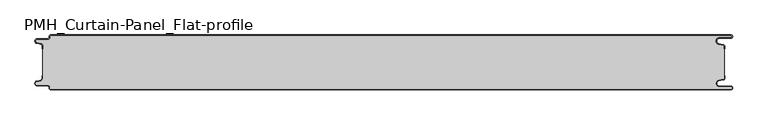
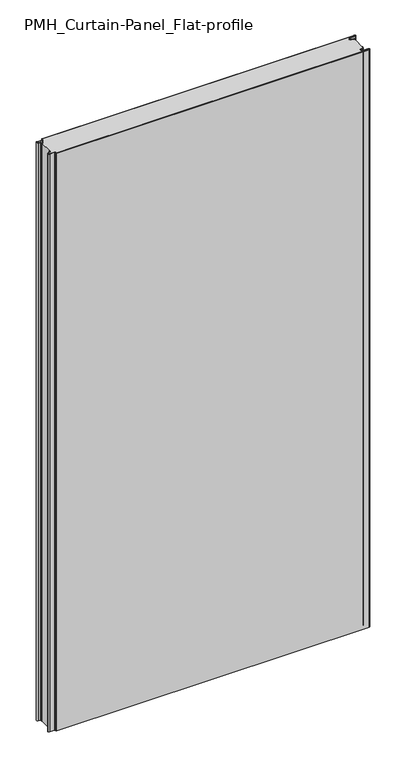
"""IFC4 building model written with IfcOpenShell, lengths in millimetres: plate geometry, PMH_Curtain-Panel_Flat-profile : ACH_PMH_Stone-wool-Panel_80M."""

from ifc_helpers import new_model, si_unit, point, frame, frame_2d, origin, origin_with_axes, place, context, project, spatial, polyline, circle_curve, trimmed, segment, composite_curve, outline, extrude, source, transform, mapped, element, save
from ifc_brep_helpers import plane_surface, cylinder_surface, revolved_surface, advanced_brep


def pmh_curtain_panel_flat_profile_7f0bee08(model_context):
    return source(origin(), model_context, "Body", "SolidModel", [
        advanced_brep(
        [(508.1, 0.0, 1945.7507136), (-487.4, 0.0, 1945.7507136), (-489.4, -2.0, 1945.7507136), (-489.4, -3.4, 1945.7507136), (-491.4, -5.4, 1945.7507136), (-506.9, -5.4, 1945.7507136), (-507.7098239, -12.5077322, 1945.7507136), (-501.5500979, -13.929817, 1945.7507136), (-500.0, -15.878557, 1945.7507136), (-500.0, -20.0, 1945.7507136), (-499.2, -20.0, 1945.7507136), (-499.2, -15.878557, 1945.7507136), (-501.370137, -13.1503208, 1945.7507136), (-507.529863, -11.728236, 1945.7507136), (-506.9, -6.2, 1945.7507136), (-491.4, -6.2, 1945.7507136), (-488.6, -3.4, 1945.7507136), (-488.6, -2.0, 1945.7507136), (-487.4, -0.8, 1945.7507136), (508.1, -0.8, 1945.7507136), (508.1, -4.2, 1945.7507136), (491.1, -4.2, 1945.7507136), (490.2664884, -13.7270771, 1945.7507136), (496.7125669, -14.8636953, 1945.7507136), (498.2, -16.6363492, 1945.7507136), (498.2, -20.0, 1945.7507136), (499.0, -20.0, 1945.7507136), (499.0, -16.6363492, 1945.7507136), (496.8514855, -14.0758491, 1945.7507136), (490.405407, -12.939231, 1945.7507136), (491.1, -5.0, 1945.7507136), (508.1, -5.0, 1945.7507136), (510.6, -2.5000002, 1945.7507136), (-487.4, 0.0, 0.0), (508.1, 0.0, 0.0), (510.6, -2.4999998, 0.0), (508.1, -5.0, 0.0), (491.1, -5.0, 0.0), (490.405407, -12.939231, 0.0), (496.8514855, -14.0758491, 0.0), (499.0, -16.6363492, 0.0), (499.0, -20.0, 0.0), (498.2, -20.0, 0.0), (498.2, -16.6363492, 0.0), (496.7125669, -14.8636953, 0.0), (490.2664884, -13.7270771, 0.0), (491.1, -4.2, 0.0), (508.1, -4.2, 0.0), (508.1, -0.8, 0.0), (-487.4, -0.8, 0.0), (-488.6, -2.0, 0.0), (-488.6, -3.4, 0.0), (-491.4, -6.2, 0.0), (-506.9, -6.2, 0.0), (-507.529863, -11.7282362, 0.0), (-501.370137, -13.150321, 0.0), (-499.2, -15.878557, 0.0), (-499.2, -20.0, 0.0), (-500.0, -20.0, 0.0), (-500.0, -15.878557, 0.0), (-501.5500978, -13.9298169, 0.0), (-507.7098239, -12.507732, 0.0), (-506.9, -5.4, 0.0), (-491.4, -5.4, 0.0), (-489.4, -3.4, 0.0), (-489.4, -2.0, 0.0)],
        [
            (0, 1),
            (1, 2, circle_curve(frame((-487.4, -2.0, 1945.7507136), z_axis=(0.0, 0.0, 1.0), x_axis=(1.0, 0.0, 0.0)), 2.0)),
            (2, 3),
            (3, 4, circle_curve(frame((-491.4, -3.4, 1945.7507136), z_axis=(0.0, 0.0, -1.0), x_axis=(1.0, 0.0, 0.0)), 2.0)),
            (4, 5),
            (5, 6, circle_curve(frame((-506.9, -9.0, 1945.7507136), z_axis=(0.0, 0.0, 1.0), x_axis=(1.0, 0.0, 0.0)), 3.6)),
            (6, 7),
            (7, 8, circle_curve(frame((-502.0, -15.878557, 1945.7507136), z_axis=(0.0, 0.0, -1.0), x_axis=(1.0, 0.0, 0.0)), 2.0)),
            (8, 9),
            (9, 10),
            (10, 11),
            (11, 12, circle_curve(frame((-502.0, -15.878557, 1945.7507136), z_axis=(0.0, 0.0, 1.0), x_axis=(1.0, 0.0, 0.0)), 2.8)),
            (12, 13),
            (13, 14, circle_curve(frame((-506.9, -9.0, 1945.7507136), z_axis=(0.0, 0.0, -1.0), x_axis=(1.0, 0.0, 0.0)), 2.8)),
            (14, 15),
            (15, 16, circle_curve(frame((-491.4, -3.4, 1945.7507136), z_axis=(0.0, 0.0, 1.0), x_axis=(1.0, 0.0, 0.0)), 2.8)),
            (16, 17),
            (17, 18, circle_curve(frame((-487.4, -2.0, 1945.7507136), z_axis=(0.0, 0.0, -1.0), x_axis=(1.0, 0.0, 0.0)), 1.2)),
            (18, 19),
            (19, 20, circle_curve(frame((508.1, -2.5, 1945.7507136), z_axis=(0.0, 0.0, -1.0), x_axis=(1.0, 0.0, 0.0)), 1.7)),
            (20, 21),
            (21, 22, circle_curve(frame((491.1, -9.0, 1945.7507136), z_axis=(0.0, 0.0, 1.0), x_axis=(1.0, 0.0, 0.0)), 4.8)),
            (22, 23),
            (23, 24, circle_curve(frame((496.4, -16.6363492, 1945.7507136), z_axis=(0.0, 0.0, -1.0), x_axis=(1.0, 0.0, 0.0)), 1.8)),
            (24, 25),
            (25, 26),
            (26, 27),
            (27, 28, circle_curve(frame((496.4, -16.6363492, 1945.7507136), z_axis=(0.0, 0.0, 1.0), x_axis=(1.0, 0.0, 0.0)), 2.6)),
            (28, 29),
            (29, 30, circle_curve(frame((491.1, -9.0, 1945.7507136), z_axis=(0.0, 0.0, -1.0), x_axis=(1.0, 0.0, 0.0)), 4.0)),
            (30, 31),
            (31, 32, circle_curve(frame((508.1, -2.5, 1945.7507136), z_axis=(0.0, 0.0, 1.0), x_axis=(1.0, 0.0, 0.0)), 2.5)),
            (32, 0, circle_curve(frame((508.1, -2.5, 1945.7507136), z_axis=(0.0, 0.0, 1.0), x_axis=(1.0, 0.0, 0.0)), 2.5)),
            (33, 34),
            (34, 35, circle_curve(frame((508.1, -2.5, 0.0), z_axis=(0.0, 0.0, -1.0), x_axis=(1.0, 0.0, 0.0)), 2.5)),
            (35, 36, circle_curve(frame((508.1, -2.5, 0.0), z_axis=(0.0, 0.0, -1.0), x_axis=(1.0, 0.0, 0.0)), 2.5)),
            (36, 37),
            (37, 38, circle_curve(frame((491.1, -9.0, 0.0), z_axis=(0.0, 0.0, 1.0), x_axis=(1.0, 0.0, 0.0)), 4.0)),
            (38, 39),
            (39, 40, circle_curve(frame((496.4, -16.6363492, 0.0), z_axis=(0.0, 0.0, -1.0), x_axis=(1.0, 0.0, 0.0)), 2.6)),
            (40, 41),
            (41, 42),
            (42, 43),
            (43, 44, circle_curve(frame((496.4, -16.6363492, 0.0), z_axis=(0.0, 0.0, 1.0), x_axis=(1.0, 0.0, 0.0)), 1.8)),
            (44, 45),
            (45, 46, circle_curve(frame((491.1, -9.0, 0.0), z_axis=(0.0, 0.0, -1.0), x_axis=(1.0, 0.0, 0.0)), 4.8)),
            (46, 47),
            (47, 48, circle_curve(frame((508.1, -2.5, 0.0), z_axis=(0.0, 0.0, 1.0), x_axis=(1.0, 0.0, 0.0)), 1.7)),
            (48, 49),
            (49, 50, circle_curve(frame((-487.4, -2.0, 0.0), z_axis=(0.0, 0.0, 1.0), x_axis=(1.0, 0.0, 0.0)), 1.2)),
            (50, 51),
            (51, 52, circle_curve(frame((-491.4, -3.4, 0.0), z_axis=(0.0, 0.0, -1.0), x_axis=(1.0, 0.0, 0.0)), 2.8)),
            (52, 53),
            (53, 54, circle_curve(frame((-506.9, -9.0, 0.0), z_axis=(0.0, 0.0, 1.0), x_axis=(1.0, 0.0, 0.0)), 2.8)),
            (54, 55),
            (55, 56, circle_curve(frame((-502.0, -15.878557, 0.0), z_axis=(0.0, 0.0, -1.0), x_axis=(1.0, 0.0, 0.0)), 2.8)),
            (56, 57),
            (57, 58),
            (58, 59),
            (59, 60, circle_curve(frame((-502.0, -15.878557, 0.0), z_axis=(0.0, 0.0, 1.0), x_axis=(1.0, 0.0, 0.0)), 2.0)),
            (60, 61),
            (61, 62, circle_curve(frame((-506.9, -9.0, 0.0), z_axis=(0.0, 0.0, -1.0), x_axis=(1.0, 0.0, 0.0)), 3.6)),
            (62, 63),
            (63, 64, circle_curve(frame((-491.4, -3.4, 0.0), z_axis=(0.0, 0.0, 1.0), x_axis=(1.0, 0.0, 0.0)), 2.0)),
            (64, 65),
            (65, 33, circle_curve(frame((-487.4, -2.0, 0.0), z_axis=(0.0, 0.0, -1.0), x_axis=(1.0, 0.0, 0.0)), 2.0)),
            (1, 33),
            (65, 2),
            (64, 3),
            (63, 4),
            (62, 5),
            (61, 6),
            (60, 7),
            (59, 8),
            (58, 9),
            (57, 10),
            (56, 11),
            (55, 12),
            (54, 13),
            (53, 14),
            (52, 15),
            (51, 16),
            (50, 17),
            (49, 18),
            (48, 19),
            (47, 20),
            (46, 21),
            (45, 22),
            (44, 23),
            (43, 24),
            (42, 25),
            (41, 26),
            (40, 27),
            (39, 28),
            (38, 29),
            (37, 30),
            (36, 31),
            (34, 0),
        ],
        [
            plane_surface(frame((-500.0, 0.0, 1945.7507136), z_axis=(0.0, 0.0, 1.0), x_axis=(0.0, 1.0, 0.0))),
            plane_surface(frame((-500.0, 0.0, 0.0), z_axis=(0.0, 0.0, -1.0), x_axis=(0.0, 1.0, 0.0))),
            cylinder_surface(frame((-487.4, -2.0, 1945.7507136), z_axis=(0.0, 0.0, 1.0), x_axis=(1.0, 0.0, 0.0)), 2.0),
            plane_surface(frame((-489.4, -2.0, 1945.7507136), z_axis=(-1.0, 0.0, 0.0), x_axis=(0.0, 0.0, -1.0))),
            revolved_surface(polyline([(-489.4, -3.4, 0.0), (-489.4, -3.4, 1945.7507136)]), (-491.4, -3.4, 1945.7507136), (0.0, 0.0, -1.0)),
            plane_surface(frame((-491.4, -5.4, 1945.7507136), z_axis=(0.0, 1.0, 0.0), x_axis=(0.0, 0.0, -1.0))),
            cylinder_surface(frame((-506.9, -9.0, 1945.7507136), z_axis=(0.0, 0.0, 1.0), x_axis=(1.0, 0.0, 0.0)), 3.6),
            plane_surface(frame((-507.7098239, -12.507732, 1945.7507136), z_axis=(-0.2249510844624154, -0.9743700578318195, 0.0), x_axis=(0.0, 0.0, -1.0))),
            revolved_surface(polyline([(-500.0, -15.878557, 0.0), (-500.0, -15.878557, 1945.7507136)]), (-502.0, -15.878557, 1945.7507136), (0.0, 0.0, -1.0)),
            plane_surface(frame((-500.0, -15.878557, 1945.7507136), z_axis=(-1.0, 0.0, 0.0), x_axis=(0.0, 0.0, -1.0))),
            plane_surface(frame((-500.0, -20.0, 1945.7507136), z_axis=(0.0, -1.0, 0.0), x_axis=(0.0, 0.0, -1.0))),
            plane_surface(frame((-499.2, -20.0, 1945.7507136), z_axis=(1.0, 0.0, 0.0), x_axis=(0.0, 0.0, -1.0))),
            cylinder_surface(frame((-502.0, -15.878557, 1945.7507136), z_axis=(0.0, 0.0, 1.0), x_axis=(1.0, 0.0, 0.0)), 2.8),
            plane_surface(frame((-501.370137, -13.150321, 1945.7507136), z_axis=(0.22495108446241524, 0.9743700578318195, 0.0), x_axis=(0.0, 0.0, -1.0))),
            revolved_surface(polyline([(-504.09999999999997, -9.0, 0.0), (-504.09999999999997, -9.0, 1945.7507136)]), (-506.9, -9.0, 1945.7507136), (0.0, 0.0, -1.0)),
            plane_surface(frame((-506.9, -6.2, 1945.7507136), z_axis=(0.0, -1.0, 0.0), x_axis=(0.0, 0.0, -1.0))),
            cylinder_surface(frame((-491.4, -3.4, 1945.7507136), z_axis=(0.0, 0.0, 1.0), x_axis=(1.0, 0.0, 0.0)), 2.8),
            plane_surface(frame((-488.6, -3.4, 1945.7507136), z_axis=(1.0, 0.0, 0.0), x_axis=(0.0, 0.0, -1.0))),
            revolved_surface(polyline([(-486.2, -2.0, 0.0), (-486.2, -2.0, 1945.7507136)]), (-487.4, -2.0, 1945.7507136), (0.0, 0.0, -1.0)),
            plane_surface(frame((-487.4, -0.8, 1945.7507136), z_axis=(0.0, -1.0, 0.0), x_axis=(0.0, 0.0, -1.0))),
            revolved_surface(polyline([(509.8, -2.5, 0.0), (509.8, -2.5, 1945.7507136)]), (508.1, -2.5, 1945.7507136), (0.0, 0.0, -1.0)),
            plane_surface(frame((508.1, -4.2, 1945.7507136), z_axis=(0.0, 1.0, 0.0), x_axis=(0.0, 0.0, -1.0))),
            cylinder_surface(frame((491.1, -9.0, 1945.7507136), z_axis=(0.0, 0.0, 1.0), x_axis=(1.0, 0.0, 0.0)), 4.8),
            plane_surface(frame((490.2664884, -13.7270771, 1945.7507136), z_axis=(-0.17364826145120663, -0.984807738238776, 0.0), x_axis=(0.0, 0.0, -1.0))),
            revolved_surface(polyline([(498.2, -16.6363492, 0.0), (498.2, -16.6363492, 1945.7507136)]), (496.4, -16.6363492, 1945.7507136), (0.0, 0.0, -1.0)),
            plane_surface(frame((498.2, -16.6363492, 1945.7507136), z_axis=(-1.0, 0.0, 0.0), x_axis=(0.0, 0.0, -1.0))),
            plane_surface(frame((498.2, -20.0, 1945.7507136), z_axis=(0.0, -1.0, 0.0), x_axis=(0.0, 0.0, -1.0))),
            plane_surface(frame((499.0, -20.0, 1945.7507136), z_axis=(1.0, 0.0, 0.0), x_axis=(0.0, 0.0, -1.0))),
            cylinder_surface(frame((496.4, -16.6363492, 1945.7507136), z_axis=(0.0, 0.0, 1.0), x_axis=(1.0, 0.0, 0.0)), 2.6),
            plane_surface(frame((496.8514855, -14.0758491, 1945.7507136), z_axis=(0.17364826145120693, 0.9848077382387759, 0.0), x_axis=(0.0, 0.0, -1.0))),
            revolved_surface(polyline([(495.1, -9.0, 0.0), (495.1, -9.0, 1945.7507136)]), (491.1, -9.0, 1945.7507136), (0.0, 0.0, -1.0)),
            plane_surface(frame((491.1, -5.0, 1945.7507136), z_axis=(0.0, -1.0, 0.0), x_axis=(0.0, 0.0, -1.0))),
            cylinder_surface(frame((508.1, -2.5, 1945.7507136), z_axis=(0.0, 0.0, 1.0), x_axis=(1.0, 0.0, 0.0)), 2.5),
            plane_surface(frame((490.5783588, 0.0, 1945.7507136), z_axis=(0.0, 1.0, 0.0), x_axis=(0.0, 0.0, -1.0))),
        ],
        [
            (0, [[1, 2, 3, 4, 5, 6, 7, 8, 9, 10, 11, 12, 13, 14, 15, 16, 17, 18, 19, 20, 21, 22, 23, 24, 25, 26, 27, 28, 29, 30, 31, 32, 33]]),
            (1, [[34, 35, 36, 37, 38, 39, 40, 41, 42, 43, 44, 45, 46, 47, 48, 49, 50, 51, 52, 53, 54, 55, 56, 57, 58, 59, 60, 61, 62, 63, 64, 65, 66]]),
            (2, [[-2, 67, -66, 68]]),
            (3, [[-3, -68, -65, 69]]),
            (4, [[-4, -69, -64, 70]]),
            (5, [[-5, -70, -63, 71]]),
            (6, [[-6, -71, -62, 72]]),
            (7, [[-7, -72, -61, 73]]),
            (8, [[-8, -73, -60, 74]]),
            (9, [[-9, -74, -59, 75]]),
            (10, [[-10, -75, -58, 76]]),
            (11, [[-11, -76, -57, 77]]),
            (12, [[-12, -77, -56, 78]]),
            (13, [[-13, -78, -55, 79]]),
            (14, [[-14, -79, -54, 80]]),
            (15, [[-15, -80, -53, 81]]),
            (16, [[-16, -81, -52, 82]]),
            (17, [[-17, -82, -51, 83]]),
            (18, [[-18, -83, -50, 84]]),
            (19, [[-19, -84, -49, 85]]),
            (20, [[-20, -85, -48, 86]]),
            (21, [[-21, -86, -47, 87]]),
            (22, [[-22, -87, -46, 88]]),
            (23, [[-23, -88, -45, 89]]),
            (24, [[-24, -89, -44, 90]]),
            (25, [[-25, -90, -43, 91]]),
            (26, [[-26, -91, -42, 92]]),
            (27, [[-27, -92, -41, 93]]),
            (28, [[-28, -93, -40, 94]]),
            (29, [[-29, -94, -39, 95]]),
            (30, [[-30, -95, -38, 96]]),
            (31, [[-31, -96, -37, 97]]),
            (32, [[-97, -36, -35, 98, -33, -32]]),
            (33, [[-1, -98, -34, -67]]),
        ],
    ),
        extrude(outline(composite_curve([segment(polyline([(-499.2, -64.1214426), (-499.2, -15.8785573)]), True, "CONTINUOUS"), segment(trimmed(circle_curve(frame_2d((-502.0, -15.8785573)), 2.8), [point((-499.2, -15.8785573))], [point((-501.370137, -13.1503212))], True, "CARTESIAN"), True, "CONTINUOUS"), segment(polyline([(-501.370137, -13.1503212), (-507.5298631, -11.7282362)]), True, "CONTINUOUS"), segment(trimmed(circle_curve(frame_2d((-506.9, -9.0)), 2.8), [point((-507.5298631, -11.7282362))], [point((-506.9, -6.2))], False, "CARTESIAN"), True, "CONTINUOUS"), segment(polyline([(-506.9, -6.2), (-491.4000001, -6.2)]), True, "CONTINUOUS"), segment(trimmed(circle_curve(frame_2d((-491.4000001, -3.4)), 2.8), [point((-491.4000001, -6.2))], [point((-488.6000001, -3.4))], True, "CARTESIAN"), True, "CONTINUOUS"), segment(polyline([(-488.6000001, -3.4), (-488.6000001, -2.0)]), True, "CONTINUOUS"), segment(trimmed(circle_curve(frame_2d((-487.4000001, -2.0)), 1.2), [point((-488.6000001, -2.0))], [point((-487.4000001, -0.8))], False, "CARTESIAN"), True, "CONTINUOUS"), segment(polyline([(-487.4000001, -0.8), (508.1, -0.8)]), True, "CONTINUOUS"), segment(trimmed(circle_curve(frame_2d((508.1, -2.5)), 1.7), [point((508.1, -0.8))], [point((508.1, -4.2))], False, "CARTESIAN"), True, "CONTINUOUS"), segment(polyline([(508.1, -4.2), (491.1, -4.2)]), True, "CONTINUOUS"), segment(trimmed(circle_curve(frame_2d((491.1, -9.0)), 4.8), [point((491.1, -4.2))], [point((490.2664883, -13.7270771))], True, "CARTESIAN"), True, "CONTINUOUS"), segment(polyline([(490.2664883, -13.7270771), (496.7125668, -14.8636953)]), True, "CONTINUOUS"), segment(trimmed(circle_curve(frame_2d((496.4, -16.6363492)), 1.8), [point((496.7125668, -14.8636953))], [point((498.2, -16.6363492))], False, "CARTESIAN"), True, "CONTINUOUS"), segment(polyline([(498.2, -16.6363492), (498.2, -63.3636508)]), True, "CONTINUOUS"), segment(trimmed(circle_curve(frame_2d((496.4, -63.3636508)), 1.8), [point((498.2, -63.3636508))], [point((496.7125668, -65.1363047))], False, "CARTESIAN"), True, "CONTINUOUS"), segment(polyline([(496.7125668, -65.1363047), (490.2664883, -66.2729229)]), True, "CONTINUOUS"), segment(trimmed(circle_curve(frame_2d((491.1, -71.0)), 4.8), [point((490.2664883, -66.2729229))], [point((491.1, -75.8))], True, "CARTESIAN"), True, "CONTINUOUS"), segment(polyline([(491.1, -75.8), (508.1, -75.8)]), True, "CONTINUOUS"), segment(trimmed(circle_curve(frame_2d((508.1, -77.5)), 1.7), [point((508.1, -75.8))], [point((508.1, -79.2))], False, "CARTESIAN"), True, "CONTINUOUS"), segment(polyline([(508.1, -79.2), (-487.4000001, -79.2)]), True, "CONTINUOUS"), segment(trimmed(circle_curve(frame_2d((-487.4000001, -78.0)), 1.2), [point((-487.4000001, -79.2))], [point((-488.6000001, -78.0))], False, "CARTESIAN"), True, "CONTINUOUS"), segment(polyline([(-488.6000001, -78.0), (-488.6000001, -76.6)]), True, "CONTINUOUS"), segment(trimmed(circle_curve(frame_2d((-491.4000001, -76.6)), 2.8), [point((-488.6000001, -76.6))], [point((-491.4000001, -73.8))], True, "CARTESIAN"), True, "CONTINUOUS"), segment(polyline([(-491.4000001, -73.8), (-506.9, -73.8)]), True, "CONTINUOUS"), segment(trimmed(circle_curve(frame_2d((-506.9, -71.0)), 2.8), [point((-506.9, -73.8))], [point((-507.5298631, -68.2717638))], False, "CARTESIAN"), True, "CONTINUOUS"), segment(polyline([(-507.5298631, -68.2717638), (-501.370137, -66.8496788)]), True, "CONTINUOUS"), segment(trimmed(circle_curve(frame_2d((-502.0, -64.1214426)), 2.8), [point((-501.370137, -66.8496788))], [point((-499.2, -64.1214426))], True, "CARTESIAN"), True, "CONTINUOUS")], self_intersect=False)), origin_with_axes(), (0.0, 0.0, 1.0), 1945.7507136),
        advanced_brep(
        [(-487.4, -80.0, 1945.7507136), (508.1, -80.0, 1945.7507136), (510.6, -77.5000002, 1945.7507136), (508.1, -75.0, 1945.7507136), (491.1, -75.0, 1945.7507136), (490.405407, -67.060769, 1945.7507136), (496.8514855, -65.9241509, 1945.7507136), (499.0, -63.3636508, 1945.7507136), (499.0, -60.0, 1945.7507136), (498.2, -60.0, 1945.7507136), (498.2, -63.3636508, 1945.7507136), (496.7125669, -65.1363047, 1945.7507136), (490.2664884, -66.2729229, 1945.7507136), (491.1, -75.8, 1945.7507136), (508.1, -75.8, 1945.7507136), (508.1, -79.2, 1945.7507136), (-487.4, -79.2, 1945.7507136), (-488.6, -78.0, 1945.7507136), (-488.6, -76.6, 1945.7507136), (-491.4, -73.8, 1945.7507136), (-506.9, -73.8, 1945.7507136), (-507.529863, -68.2717638, 1945.7507136), (-501.370137, -66.849679, 1945.7507136), (-499.2, -64.121443, 1945.7507136), (-499.2, -60.0, 1945.7507136), (-500.0, -60.0, 1945.7507136), (-500.0, -64.121443, 1945.7507136), (-501.5500978, -66.0701831, 1945.7507136), (-507.7098239, -67.492268, 1945.7507136), (-506.9, -74.6, 1945.7507136), (-491.4, -74.6, 1945.7507136), (-489.4, -76.6, 1945.7507136), (-489.4, -78.0, 1945.7507136), (508.1, -80.0, 0.0), (-487.4, -80.0, 0.0), (-489.4, -78.0, 0.0), (-489.4, -76.6, 0.0), (-491.4, -74.6, 0.0), (-506.9, -74.6, 0.0), (-507.7098239, -67.4922678, 0.0), (-501.5500979, -66.070183, 0.0), (-500.0, -64.121443, 0.0), (-500.0, -60.0, 0.0), (-499.2, -60.0, 0.0), (-499.2, -64.121443, 0.0), (-501.370137, -66.8496792, 0.0), (-507.529863, -68.271764, 0.0), (-506.9, -73.8, 0.0), (-491.4, -73.8, 0.0), (-488.6, -76.6, 0.0), (-488.6, -78.0, 0.0), (-487.4, -79.2, 0.0), (508.1, -79.2, 0.0), (508.1, -75.8, 0.0), (491.1, -75.8, 0.0), (490.2664884, -66.2729229, 0.0), (496.7125669, -65.1363047, 0.0), (498.2, -63.3636508, 0.0), (498.2, -60.0, 0.0), (499.0, -60.0, 0.0), (499.0, -63.3636508, 0.0), (496.8514855, -65.9241509, 0.0), (490.405407, -67.060769, 0.0), (491.1, -75.0, 0.0), (508.1, -75.0, 0.0), (510.6, -77.4999998, 0.0)],
        [
            (0, 1),
            (1, 2, circle_curve(frame((508.1, -77.5, 1945.7507136), z_axis=(0.0, 0.0, 1.0), x_axis=(1.0, 0.0, 0.0)), 2.5)),
            (2, 3, circle_curve(frame((508.1, -77.5, 1945.7507136), z_axis=(0.0, 0.0, 1.0), x_axis=(1.0, 0.0, 0.0)), 2.5)),
            (3, 4),
            (4, 5, circle_curve(frame((491.1, -71.0, 1945.7507136), z_axis=(0.0, 0.0, -1.0), x_axis=(1.0, 0.0, 0.0)), 4.0)),
            (5, 6),
            (6, 7, circle_curve(frame((496.4, -63.3636508, 1945.7507136), z_axis=(0.0, 0.0, 1.0), x_axis=(1.0, 0.0, 0.0)), 2.6)),
            (7, 8),
            (8, 9),
            (9, 10),
            (10, 11, circle_curve(frame((496.4, -63.3636508, 1945.7507136), z_axis=(0.0, 0.0, -1.0), x_axis=(1.0, 0.0, 0.0)), 1.8)),
            (11, 12),
            (12, 13, circle_curve(frame((491.1, -71.0, 1945.7507136), z_axis=(0.0, 0.0, 1.0), x_axis=(1.0, 0.0, 0.0)), 4.8)),
            (13, 14),
            (14, 15, circle_curve(frame((508.1, -77.5, 1945.7507136), z_axis=(0.0, 0.0, -1.0), x_axis=(1.0, 0.0, 0.0)), 1.7)),
            (15, 16),
            (16, 17, circle_curve(frame((-487.4, -78.0, 1945.7507136), z_axis=(0.0, 0.0, -1.0), x_axis=(1.0, 0.0, 0.0)), 1.2)),
            (17, 18),
            (18, 19, circle_curve(frame((-491.4, -76.6, 1945.7507136), z_axis=(0.0, 0.0, 1.0), x_axis=(1.0, 0.0, 0.0)), 2.8)),
            (19, 20),
            (20, 21, circle_curve(frame((-506.9, -71.0, 1945.7507136), z_axis=(0.0, 0.0, -1.0), x_axis=(1.0, 0.0, 0.0)), 2.8)),
            (21, 22),
            (22, 23, circle_curve(frame((-502.0, -64.121443, 1945.7507136), z_axis=(0.0, 0.0, 1.0), x_axis=(1.0, 0.0, 0.0)), 2.8)),
            (23, 24),
            (24, 25),
            (25, 26),
            (26, 27, circle_curve(frame((-502.0, -64.121443, 1945.7507136), z_axis=(0.0, 0.0, -1.0), x_axis=(1.0, 0.0, 0.0)), 2.0)),
            (27, 28),
            (28, 29, circle_curve(frame((-506.9, -71.0, 1945.7507136), z_axis=(0.0, 0.0, 1.0), x_axis=(1.0, 0.0, 0.0)), 3.6)),
            (29, 30),
            (30, 31, circle_curve(frame((-491.4, -76.6, 1945.7507136), z_axis=(0.0, 0.0, -1.0), x_axis=(1.0, 0.0, 0.0)), 2.0)),
            (31, 32),
            (32, 0, circle_curve(frame((-487.4, -78.0, 1945.7507136), z_axis=(0.0, 0.0, 1.0), x_axis=(1.0, 0.0, 0.0)), 2.0)),
            (33, 34),
            (34, 35, circle_curve(frame((-487.4, -78.0, 0.0), z_axis=(0.0, 0.0, -1.0), x_axis=(1.0, 0.0, 0.0)), 2.0)),
            (35, 36),
            (36, 37, circle_curve(frame((-491.4, -76.6, 0.0), z_axis=(0.0, 0.0, 1.0), x_axis=(1.0, 0.0, 0.0)), 2.0)),
            (37, 38),
            (38, 39, circle_curve(frame((-506.9, -71.0, 0.0), z_axis=(0.0, 0.0, -1.0), x_axis=(1.0, 0.0, 0.0)), 3.6)),
            (39, 40),
            (40, 41, circle_curve(frame((-502.0, -64.121443, 0.0), z_axis=(0.0, 0.0, 1.0), x_axis=(1.0, 0.0, 0.0)), 2.0)),
            (41, 42),
            (42, 43),
            (43, 44),
            (44, 45, circle_curve(frame((-502.0, -64.121443, 0.0), z_axis=(0.0, 0.0, -1.0), x_axis=(1.0, 0.0, 0.0)), 2.8)),
            (45, 46),
            (46, 47, circle_curve(frame((-506.9, -71.0, 0.0), z_axis=(0.0, 0.0, 1.0), x_axis=(1.0, 0.0, 0.0)), 2.8)),
            (47, 48),
            (48, 49, circle_curve(frame((-491.4, -76.6, 0.0), z_axis=(0.0, 0.0, -1.0), x_axis=(1.0, 0.0, 0.0)), 2.8)),
            (49, 50),
            (50, 51, circle_curve(frame((-487.4, -78.0, 0.0), z_axis=(0.0, 0.0, 1.0), x_axis=(1.0, 0.0, 0.0)), 1.2)),
            (51, 52),
            (52, 53, circle_curve(frame((508.1, -77.5, 0.0), z_axis=(0.0, 0.0, 1.0), x_axis=(1.0, 0.0, 0.0)), 1.7)),
            (53, 54),
            (54, 55, circle_curve(frame((491.1, -71.0, 0.0), z_axis=(0.0, 0.0, -1.0), x_axis=(1.0, 0.0, 0.0)), 4.8)),
            (55, 56),
            (56, 57, circle_curve(frame((496.4, -63.3636508, 0.0), z_axis=(0.0, 0.0, 1.0), x_axis=(1.0, 0.0, 0.0)), 1.8)),
            (57, 58),
            (58, 59),
            (59, 60),
            (60, 61, circle_curve(frame((496.4, -63.3636508, 0.0), z_axis=(0.0, 0.0, -1.0), x_axis=(1.0, 0.0, 0.0)), 2.6)),
            (61, 62),
            (62, 63, circle_curve(frame((491.1, -71.0, 0.0), z_axis=(0.0, 0.0, 1.0), x_axis=(1.0, 0.0, 0.0)), 4.0)),
            (63, 64),
            (64, 65, circle_curve(frame((508.1, -77.5, 0.0), z_axis=(0.0, 0.0, -1.0), x_axis=(1.0, 0.0, 0.0)), 2.5)),
            (65, 33, circle_curve(frame((508.1, -77.5, 0.0), z_axis=(0.0, 0.0, -1.0), x_axis=(1.0, 0.0, 0.0)), 2.5)),
            (0, 34),
            (33, 1),
            (64, 3),
            (63, 4),
            (62, 5),
            (61, 6),
            (60, 7),
            (59, 8),
            (58, 9),
            (57, 10),
            (56, 11),
            (55, 12),
            (54, 13),
            (53, 14),
            (52, 15),
            (51, 16),
            (50, 17),
            (49, 18),
            (48, 19),
            (47, 20),
            (46, 21),
            (45, 22),
            (44, 23),
            (43, 24),
            (42, 25),
            (41, 26),
            (40, 27),
            (39, 28),
            (38, 29),
            (37, 30),
            (36, 31),
            (35, 32),
        ],
        [
            plane_surface(frame((-500.0, -80.0, 1945.7507136), z_axis=(0.0, 0.0, 1.0), x_axis=(0.0, 1.0, 0.0))),
            plane_surface(frame((-500.0, -80.0, 0.0), z_axis=(0.0, 0.0, -1.0), x_axis=(0.0, 1.0, 0.0))),
            plane_surface(frame((490.5783588, -80.0, 1945.7507136), z_axis=(0.0, -1.0, 0.0), x_axis=(0.0, 0.0, -1.0))),
            cylinder_surface(frame((508.1, -77.5, 1945.7507136), z_axis=(0.0, 0.0, 1.0), x_axis=(1.0, 0.0, 0.0)), 2.5),
            plane_surface(frame((508.1, -75.0, 1945.7507136), z_axis=(0.0, 1.0, 0.0), x_axis=(0.0, 0.0, -1.0))),
            revolved_surface(polyline([(495.1, -71.0, 0.0), (495.1, -71.0, 1945.7507136)]), (491.1, -71.0, 1945.7507136), (0.0, 0.0, -1.0)),
            plane_surface(frame((490.405407, -67.060769, 1945.7507136), z_axis=(0.17364826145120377, -0.9848077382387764, 0.0), x_axis=(0.0, 0.0, -1.0))),
            cylinder_surface(frame((496.4, -63.3636508, 1945.7507136), z_axis=(0.0, 0.0, 1.0), x_axis=(1.0, 0.0, 0.0)), 2.6),
            plane_surface(frame((499.0, -63.3636508, 1945.7507136), z_axis=(1.0, 0.0, 0.0), x_axis=(0.0, 0.0, -1.0))),
            plane_surface(frame((499.0, -60.0, 1945.7507136), z_axis=(0.0, 1.0, 0.0), x_axis=(0.0, 0.0, -1.0))),
            plane_surface(frame((498.2, -60.0, 1945.7507136), z_axis=(-1.0, 0.0, 0.0), x_axis=(0.0, 0.0, -1.0))),
            revolved_surface(polyline([(498.2, -63.3636508, 0.0), (498.2, -63.3636508, 1945.7507136)]), (496.4, -63.3636508, 1945.7507136), (0.0, 0.0, -1.0)),
            plane_surface(frame((496.7125669, -65.1363047, 1945.7507136), z_axis=(-0.17364826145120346, 0.9848077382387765, 0.0), x_axis=(0.0, 0.0, -1.0))),
            cylinder_surface(frame((491.1, -71.0, 1945.7507136), z_axis=(0.0, 0.0, 1.0), x_axis=(1.0, 0.0, 0.0)), 4.8),
            plane_surface(frame((491.1, -75.8, 1945.7507136), z_axis=(0.0, -1.0, 0.0), x_axis=(0.0, 0.0, -1.0))),
            revolved_surface(polyline([(509.8, -77.5, 0.0), (509.8, -77.5, 1945.7507136)]), (508.1, -77.5, 1945.7507136), (0.0, 0.0, -1.0)),
            plane_surface(frame((508.1, -79.2, 1945.7507136), z_axis=(0.0, 1.0, 0.0), x_axis=(0.0, 0.0, -1.0))),
            revolved_surface(polyline([(-486.2, -78.0, 0.0), (-486.2, -78.0, 1945.7507136)]), (-487.4, -78.0, 1945.7507136), (0.0, 0.0, -1.0)),
            plane_surface(frame((-488.6, -78.0, 1945.7507136), z_axis=(1.0, 0.0, 0.0), x_axis=(0.0, 0.0, -1.0))),
            cylinder_surface(frame((-491.4, -76.6, 1945.7507136), z_axis=(0.0, 0.0, 1.0), x_axis=(1.0, 0.0, 0.0)), 2.8),
            plane_surface(frame((-491.4, -73.8, 1945.7507136), z_axis=(0.0, 1.0, 0.0), x_axis=(0.0, 0.0, -1.0))),
            revolved_surface(polyline([(-504.09999999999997, -71.0, 0.0), (-504.09999999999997, -71.0, 1945.7507136)]), (-506.9, -71.0, 1945.7507136), (0.0, 0.0, -1.0)),
            plane_surface(frame((-507.529863, -68.271764, 1945.7507136), z_axis=(0.2249510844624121, -0.9743700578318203, 0.0), x_axis=(0.0, 0.0, -1.0))),
            cylinder_surface(frame((-502.0, -64.121443, 1945.7507136), z_axis=(0.0, 0.0, 1.0), x_axis=(1.0, 0.0, 0.0)), 2.8),
            plane_surface(frame((-499.2, -64.121443, 1945.7507136), z_axis=(1.0, 0.0, 0.0), x_axis=(0.0, 0.0, -1.0))),
            plane_surface(frame((-499.2, -60.0, 1945.7507136), z_axis=(0.0, 1.0, 0.0), x_axis=(0.0, 0.0, -1.0))),
            plane_surface(frame((-500.0, -60.0, 1945.7507136), z_axis=(-1.0, 0.0, 0.0), x_axis=(0.0, 0.0, -1.0))),
            revolved_surface(polyline([(-500.0, -64.121443, 0.0), (-500.0, -64.121443, 1945.7507136)]), (-502.0, -64.121443, 1945.7507136), (0.0, 0.0, -1.0)),
            plane_surface(frame((-501.5500979, -66.070183, 1945.7507136), z_axis=(-0.22495108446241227, 0.9743700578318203, 0.0), x_axis=(0.0, 0.0, -1.0))),
            cylinder_surface(frame((-506.9, -71.0, 1945.7507136), z_axis=(0.0, 0.0, 1.0), x_axis=(1.0, 0.0, 0.0)), 3.6),
            plane_surface(frame((-506.9, -74.6, 1945.7507136), z_axis=(0.0, -1.0, 0.0), x_axis=(0.0, 0.0, -1.0))),
            revolved_surface(polyline([(-489.4, -76.6, 0.0), (-489.4, -76.6, 1945.7507136)]), (-491.4, -76.6, 1945.7507136), (0.0, 0.0, -1.0)),
            plane_surface(frame((-489.4, -76.6, 1945.7507136), z_axis=(-1.0, 0.0, 0.0), x_axis=(0.0, 0.0, -1.0))),
            cylinder_surface(frame((-487.4, -78.0, 1945.7507136), z_axis=(0.0, 0.0, 1.0), x_axis=(1.0, 0.0, 0.0)), 2.0),
        ],
        [
            (0, [[1, 2, 3, 4, 5, 6, 7, 8, 9, 10, 11, 12, 13, 14, 15, 16, 17, 18, 19, 20, 21, 22, 23, 24, 25, 26, 27, 28, 29, 30, 31, 32, 33]]),
            (1, [[34, 35, 36, 37, 38, 39, 40, 41, 42, 43, 44, 45, 46, 47, 48, 49, 50, 51, 52, 53, 54, 55, 56, 57, 58, 59, 60, 61, 62, 63, 64, 65, 66]]),
            (2, [[-1, 67, -34, 68]]),
            (3, [[-68, -66, -65, 69, -3, -2]]),
            (4, [[-4, -69, -64, 70]]),
            (5, [[-5, -70, -63, 71]]),
            (6, [[-6, -71, -62, 72]]),
            (7, [[-7, -72, -61, 73]]),
            (8, [[-8, -73, -60, 74]]),
            (9, [[-9, -74, -59, 75]]),
            (10, [[-10, -75, -58, 76]]),
            (11, [[-11, -76, -57, 77]]),
            (12, [[-12, -77, -56, 78]]),
            (13, [[-13, -78, -55, 79]]),
            (14, [[-14, -79, -54, 80]]),
            (15, [[-15, -80, -53, 81]]),
            (16, [[-16, -81, -52, 82]]),
            (17, [[-17, -82, -51, 83]]),
            (18, [[-18, -83, -50, 84]]),
            (19, [[-19, -84, -49, 85]]),
            (20, [[-20, -85, -48, 86]]),
            (21, [[-21, -86, -47, 87]]),
            (22, [[-22, -87, -46, 88]]),
            (23, [[-23, -88, -45, 89]]),
            (24, [[-24, -89, -44, 90]]),
            (25, [[-25, -90, -43, 91]]),
            (26, [[-26, -91, -42, 92]]),
            (27, [[-27, -92, -41, 93]]),
            (28, [[-28, -93, -40, 94]]),
            (29, [[-29, -94, -39, 95]]),
            (30, [[-30, -95, -38, 96]]),
            (31, [[-31, -96, -37, 97]]),
            (32, [[-32, -97, -36, 98]]),
            (33, [[-33, -98, -35, -67]]),
        ],
    ),
    ])


if __name__ == "__main__":
    model = new_model("IFC4")
    model_context = context("Model", 3, world=origin())
    ifc_project = project(units=[si_unit("LENGTHUNIT", "METRE", prefix="MILLI")], contexts=[model_context])
    site = spatial("IfcSite", under=ifc_project)
    building = spatial("IfcBuilding", under=site)
    placement = place(None, origin())
    pmh_curtain_panel_flat_profile_shape = pmh_curtain_panel_flat_profile_7f0bee08(model_context)
    element("IfcPlate", 1, ObjectType="PMH_Curtain-Panel_Flat-profile : ACH_PMH_Stone-wool-Panel_80M", at=placement, inside=building, context=model_context, shape_type="MappedRepresentation", body=[
        mapped(pmh_curtain_panel_flat_profile_shape, transform((0.0, 0.0, 0.0), x_axis=(1.0, 0.0, 0.0), y_axis=(0.0, 1.0, 0.0), z_axis=(0.0, 0.0, 1.0))),
    ])
    save(model, "model.ifc")
